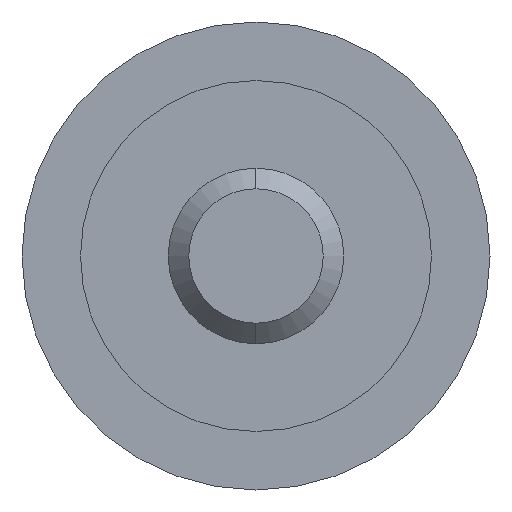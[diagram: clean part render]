
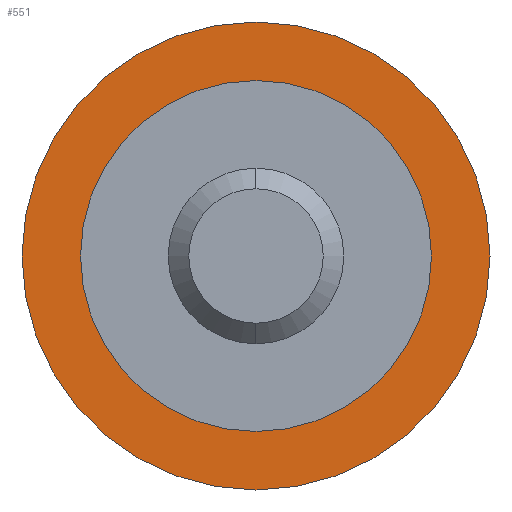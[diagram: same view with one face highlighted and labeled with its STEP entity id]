
A CAD part, left-side view. The second image highlights one B-rep face of the part: STEP entity #551.
In plain terms, the highlighted planar face has unit normal (-1, 0, 0).
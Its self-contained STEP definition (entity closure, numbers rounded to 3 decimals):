
#1 = EDGE_CURVE ( 'NONE', #74, #132, #546, .T. ) ;
#54 = DIRECTION ( 'NONE',  ( 1., 0., 0. ) ) ;
#73 = CARTESIAN_POINT ( 'NONE',  ( -4., 0., 0. ) ) ;
#74 = VERTEX_POINT ( 'NONE', #227 ) ;
#76 = FACE_OUTER_BOUND ( 'NONE', #402, .T. ) ;
#83 = PLANE ( 'NONE',  #458 ) ;
#89 = CIRCLE ( 'NONE', #468, 3. ) ;
#92 = DIRECTION ( 'NONE',  ( 0., 0., 1. ) ) ;
#127 = CIRCLE ( 'NONE', #262, 3. ) ;
#132 = VERTEX_POINT ( 'NONE', #167 ) ;
#158 = DIRECTION ( 'NONE',  ( -1., 0., 0. ) ) ;
#163 = AXIS2_PLACEMENT_3D ( 'NONE', #417, #158, #266 ) ;
#166 = CARTESIAN_POINT ( 'NONE',  ( -4., 0., 0. ) ) ;
#167 = CARTESIAN_POINT ( 'NONE',  ( -4., 0., 4. ) ) ;
#186 = DIRECTION ( 'NONE',  ( -1., 0., 0. ) ) ;
#210 = DIRECTION ( 'NONE',  ( -1., 0., 0. ) ) ;
#227 = CARTESIAN_POINT ( 'NONE',  ( -4., 0., -4. ) ) ;
#244 = FACE_BOUND ( 'NONE', #547, .T. ) ;
#248 = EDGE_CURVE ( 'NONE', #656, #642, #127, .T. ) ;
#262 = AXIS2_PLACEMENT_3D ( 'NONE', #166, #210, #675 ) ;
#266 = DIRECTION ( 'NONE',  ( 0., 0., 1. ) ) ;
#282 = ORIENTED_EDGE ( 'NONE', *, *, #515, .F. ) ;
#293 = AXIS2_PLACEMENT_3D ( 'NONE', #73, #186, #646 ) ;
#333 = ORIENTED_EDGE ( 'NONE', *, *, #1, .T. ) ;
#369 = CARTESIAN_POINT ( 'NONE',  ( -4., 3., 0. ) ) ;
#402 = EDGE_LOOP ( 'NONE', ( #618, #333 ) ) ;
#411 = CARTESIAN_POINT ( 'NONE',  ( -4., 0., 0. ) ) ;
#417 = CARTESIAN_POINT ( 'NONE',  ( -4., 0., 0. ) ) ;
#419 = CARTESIAN_POINT ( 'NONE',  ( -4., 0., -3. ) ) ;
#425 = EDGE_CURVE ( 'NONE', #132, #74, #494, .T. ) ;
#458 = AXIS2_PLACEMENT_3D ( 'NONE', #369, #54, #560 ) ;
#468 = AXIS2_PLACEMENT_3D ( 'NONE', #411, #609, #92 ) ;
#494 = CIRCLE ( 'NONE', #293, 4. ) ;
#515 = EDGE_CURVE ( 'NONE', #642, #656, #89, .T. ) ;
#522 = ORIENTED_EDGE ( 'NONE', *, *, #248, .F. ) ;
#546 = CIRCLE ( 'NONE', #163, 4. ) ;
#547 = EDGE_LOOP ( 'NONE', ( #522, #282 ) ) ;
#551 = ADVANCED_FACE ( 'NONE', ( #244, #76 ), #83, .F. ) ;
#560 = DIRECTION ( 'NONE',  ( 0., 0., -1. ) ) ;
#609 = DIRECTION ( 'NONE',  ( -1., 0., 0. ) ) ;
#618 = ORIENTED_EDGE ( 'NONE', *, *, #425, .T. ) ;
#642 = VERTEX_POINT ( 'NONE', #419 ) ;
#646 = DIRECTION ( 'NONE',  ( 0., 0., 1. ) ) ;
#656 = VERTEX_POINT ( 'NONE', #673 ) ;
#673 = CARTESIAN_POINT ( 'NONE',  ( -4., 0., 3. ) ) ;
#675 = DIRECTION ( 'NONE',  ( 0., 0., 1. ) ) ;
